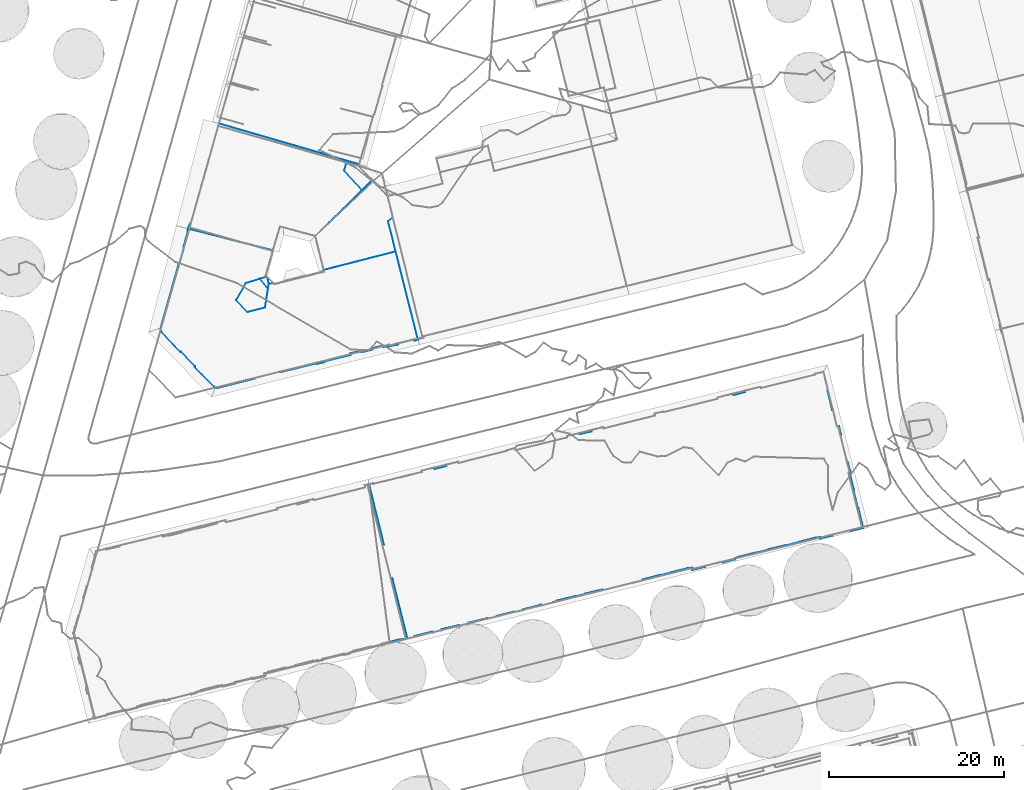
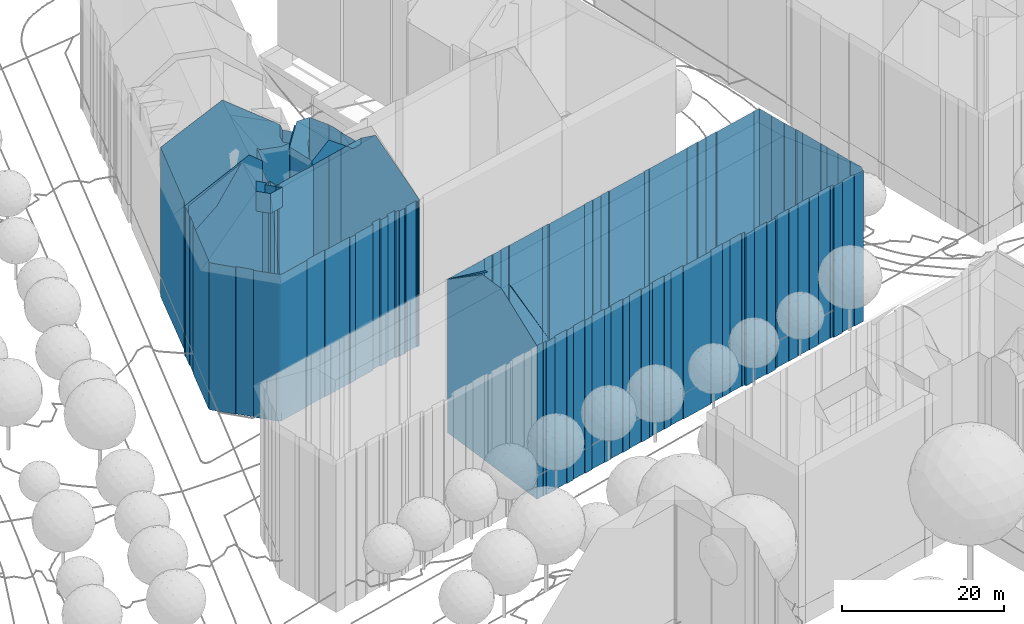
# Not in any storey, part 28 of 494: 3 walls.
"""IFC2X3 model written with IfcOpenShell, lengths in metres."""

from ifc_helpers import new_model, si_unit, frame, origin_with_axes, place, context, subcontext, project, faceted_brep, element, save


model = new_model("IFC2X3")

# Units and contexts
model_context = context("Model", 3, precision=1e-05, world=origin_with_axes())
body_context = subcontext(model_context, "Body", "Model", "MODEL_VIEW")
ifc_project = project(units=[si_unit("AREAUNIT", "SQUARE_METRE"), si_unit("LENGTHUNIT", "METRE")], contexts=[model_context])

# Walls
wall_1_placement = place(None, frame((81.7547320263, 354.0350160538, 535.8227), z_axis=(0.0, 0.0, 1.0), x_axis=(1.0, 0.0, 0.0)))
element("IfcWall", 1, at=wall_1_placement, Name="Wall 0", context=body_context, shape_type="Brep", body=[
    faceted_brep([(2.7639999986, -10.9317000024, 27.7403), (2.6779999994, -10.5811000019, 27.7703), (2.7639999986, -10.9317000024, 27.5734), (1.6660000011, -6.5508000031, 27.4574), (1.6660000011, -6.5508000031, 27.7914), (0.063000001, 0.0155999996, 23.0608), (0.063000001, 0.0155999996, 23.0878), (1.7730000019, -6.9131000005, 27.7424), (4.4270000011, -17.6055000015, 23.0608), (4.4270000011, -17.6055000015, 23.0748), (1.4459999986, -10.8868000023, 27.7703), (0.9459999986, -7.1202000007, 27.7704), (1.4459999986, -10.8868000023, 0.0), (1.4919999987, -11.2305000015, 27.5814), (1.4919999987, -11.2305000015, 0.0), (3.4310000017, -17.7675999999, 0.0), (3.4310000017, -17.7675999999, 23.1128), (3.4160000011, -17.7237000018, 0.0), (3.8969999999, -17.6446000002, 0.0), (3.8969999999, -17.6443000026, 23.1188), (3.9178999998, -17.7312000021, 0.0), (3.9178999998, -17.7312000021, 23.0598), (4.2390000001, -17.6513999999, 23.0608), (4.2390000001, -17.6513999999, 0.0), (4.4299999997, -17.6045000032, 0.0), (2.3880000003, -17.9776000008, 0.0), (2.3880000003, -17.9776000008, 23.1418), (5.2769999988, -17.3946000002, 0.0), (4.7899999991, -17.5157000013, 23.0758), (5.2769999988, -17.3946000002, 23.0778), (5.2609999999, -17.3057000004, 23.1388), (5.2609999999, -17.3057000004, 0.0), (7.2520000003, -16.8125, 0.0), (7.2520000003, -16.8125, 23.1438), (7.2829999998, -16.8965000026, 0.0), (7.2829999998, -16.8965000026, 23.0838), (7.7230000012, -16.7871000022, 23.0848), (8.2120000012, -16.6661000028, 0.0), (8.2300000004, -16.6621000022, 23.0868), (8.3420000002, -16.5411000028, 23.1478), (8.3630000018, -16.6289000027, 0.0), (8.3420000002, -16.5411000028, 0.0), (8.7390000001, -16.443400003, 23.1488), (8.7919999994, -16.4307000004, 0.0), (8.3630000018, -16.6289000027, 23.0858), (24.6559999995, -12.4786000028, 23.1148), (24.6559999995, -12.4786000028, 0.0), (26.6669999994, -11.9932000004, 23.0998), (26.6669999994, -11.9932000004, 0.0), (26.694000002, -12.0840000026, 23.0318), (31.2730000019, -10.9502000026, 23.0178), (31.2730000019, -10.9502000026, 0.0), (31.2470000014, -10.8467000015, 23.0938), (31.2470000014, -10.8467000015, 0.0), (33.2459999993, -10.3409000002, 0.0), (33.2459999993, -10.3409000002, 23.0948), (33.2580000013, -10.3731000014, 0.0), (34.4510000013, -10.0811000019, 0.0), (34.4510000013, -10.0811000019, 23.0648), (34.4450000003, -10.0459000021, 0.0), (34.4450000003, -10.0459000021, 23.0898), (36.3969999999, -9.567400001, 23.0808), (36.4070000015, -9.6084000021, 0.0), (36.4070000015, -9.6084000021, 23.0498), (36.3969999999, -9.567400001, 0.0), (36.8330000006, -9.5020000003, 0.0), (36.9052000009, -9.7803000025, 0.0), (36.9050000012, -9.7803000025, 22.8438), (36.8330000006, -9.5020000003, 23.0488), (38.3379999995, -9.327200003, 0.0), (40.3770000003, -8.8203000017, 0.0), (40.3770000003, -8.8203000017, 22.9028), (38.3379999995, -9.327200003, 22.9078), (40.4010000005, -8.9151000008, 22.8328), (40.4010000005, -8.9151000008, 0.0), (41.8090000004, -8.563500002, 0.0), (41.7730000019, -8.4131000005, 22.9408), (41.8090000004, -8.563500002, 22.8298), (42.1550000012, -8.3194000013, 22.9388), (41.7730000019, -8.4131000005, 0.0), (42.1550000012, -8.3194000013, 0.0), (42.1449999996, -8.2803000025, 22.9678), (42.1449999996, -8.2803000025, 0.0), (44.1460000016, -7.7832000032, 0.0), (44.1460000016, -7.7832000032, 22.9628), (44.1610000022, -7.8145000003, 22.9388), (45.6469999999, -7.4502000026, 22.9308), (44.1610000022, -7.8145000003, 0.0), (47.5320000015, -6.942400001, 22.9538), (45.6330000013, -7.4034000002, 0.0), (47.5320000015, -6.942400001, 0.0), (45.6330000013, -7.4034000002, 22.9658), (47.5450000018, -6.9803000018, 22.9248), (47.5450000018, -6.9805000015, 0.0), (49.0370000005, -6.6152999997, 22.9168), (49.0370000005, -6.6152999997, 0.0), (49.0250000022, -6.5703000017, 0.0), (49.0250000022, -6.5703000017, 22.9508), (51.0549999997, -6.0576000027, 0.0), (51.0549999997, -6.0577000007, 22.9508), (51.0709999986, -6.1055000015, 0.0), (51.0709999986, -6.1055000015, 22.9148), (51.4629999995, -6.004900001, 0.0), (51.4629999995, -6.004900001, 22.9158), (51.5159999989, -6.1748000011, 22.7888), (51.5159999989, -6.1748000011, 0.0), (52.9180000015, -5.8379000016, 0.0), (52.9180000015, -5.8379000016, 22.7768), (52.8949999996, -5.7276000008, 22.8578), (54.9420000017, -5.2276000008, 0.0), (54.9420000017, -5.2276000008, 22.8468), (52.8949999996, -5.7276000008, 0.0), (54.9670000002, -5.3269999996, 0.0), (54.9670000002, -5.3269999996, 22.7728), (56.4129999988, -4.9825000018, 22.7598), (10.3099999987, -16.0567000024, 0.0), (10.3099999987, -16.0567000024, 23.1428), (10.3361000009, -16.1405999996, 0.0), (10.3359999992, -16.1407000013, 23.0798), (11.4270000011, -15.8692000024, 0.0), (11.4270000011, -15.8692000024, 23.0768), (11.4090000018, -15.7901000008, 0.0), (13.561999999, -15.2696000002, 0.0), (11.4090000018, -15.7901000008, 23.1348), (13.5621000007, -15.2699000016, 23.1198), (13.5789999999, -15.3360000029, 23.0698), (13.5789999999, -15.3360000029, 0.0), (14.5879999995, -15.0860000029, 0.0), (14.5879999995, -15.0860000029, 23.0668), (14.5729999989, -15.0157000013, 23.1188), (14.5729999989, -15.0157000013, 0.0), (16.5639999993, -14.5245000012, 23.1118), (16.5639999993, -14.5244000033, 0.0), (16.5800000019, -14.5918000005, 0.0), (16.5800000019, -14.5918000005, 23.0618), (17.6959999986, -14.3155000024, 23.0578), (17.6810000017, -14.2383000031, 0.0), (17.6959999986, -14.3154000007, 0.0), (17.6810000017, -14.2383000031, 23.1148), (19.6710000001, -13.7471000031, 0.0), (19.6710000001, -13.7471000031, 23.1068), (19.6909999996, -13.8213, 0.0), (21.0590000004, -13.4825000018, 0.0), (21.0590000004, -13.4825000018, 23.0478), (19.6909999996, -13.8213, 23.0518), (21.0470000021, -13.4239000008, 23.0898), (21.5269999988, -13.3057000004, 23.0888), (21.5269999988, -13.3057000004, 0.0), (21.0470000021, -13.4239000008, 0.0), (21.5130000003, -13.2530000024, 0.0), (23.5159999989, -12.7637000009, 23.1168), (23.5159999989, -12.7637000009, 0.0), (21.5130000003, -13.2530000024, 23.1268), (23.5280000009, -12.8055000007, 0.0), (23.5280000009, -12.8055000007, 23.0858), (24.6680000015, -12.5263999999, 23.0798), (24.6680000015, -12.5263999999, 0.0), (56.2769999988, -4.4229000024, 7.2093), (56.2320000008, -4.2422000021, 23.0718), (56.2630000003, -4.3692000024, 23.0758), (56.307, -4.5470000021, 23.0798), (56.307, -4.5470000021, 0.0), (56.2300000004, -4.2334000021, 0.0), (53.4220000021, 6.5898000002, 22.9728), (53.4220000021, 6.5898000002, 0.0), (52.9479999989, 8.5067999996, 22.9398), (52.9479999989, 8.5067999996, 0.0), (52.8770000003, 8.4842999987, 22.9908), (52.8770000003, 8.4842999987, 0.0), (52.3440000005, 10.6747999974, 0.0), (52.3440000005, 10.6747999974, 22.9478), (52.4050000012, 10.6991999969, 0.0), (52.4050000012, 10.6991999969, 22.9028), (51.8770000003, 12.8299999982, 0.0), (51.8770000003, 12.8299999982, 22.8678), (50.9210000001, 12.5975999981, 22.9138), (51.8110000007, 12.8134000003, 22.9138), (55.9979999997, -3.2842000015, 5.7504), (55.9880000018, -3.2442000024, 23.0528), (55.8570000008, -2.7090000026, 23.0428), (55.8570000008, -2.7090000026, 0.0), (56.1380000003, -3.8594000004, 11.5289), (55.8110000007, -2.7168000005, 0.0), (55.8110000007, -2.7168000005, 23.0748), (55.3489999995, -0.6338, 23.0038), (55.3029999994, -0.6494000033, 0.0), (55.3489999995, -0.6338, 0.0), (54.8599999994, 1.369099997, 22.9658), (54.8599999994, 1.369099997, 0.0), (54.949000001, 1.3905999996, 0.0), (54.949000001, 1.3905999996, 22.9028), (54.5969999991, 2.4491999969, 22.9448), (53.8220000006, 5.5625, 0.0), (53.8220000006, 5.5625, 22.8948), (53.9100000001, 5.5887999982, 0.0), (53.9100000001, 5.5887999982, 22.8318), (53.6570000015, 6.6454999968, 0.0), (53.6570000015, 6.6454999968, 22.8088), (0.0, 0.0, 23.0658), (0.0329999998, 0.0088, 0.0), (0.0, 0.0, 0.0), (0.1150000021, 0.0282999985, 23.0868), (0.9459999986, -7.1202000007, 0.0), (0.5269999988, 0.047799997, 23.1408), (2.4389999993, 0.5145999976, 10.481), (0.5269999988, 0.047799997, 0.0), (4.1270000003, 0.9266999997, 0.0), (0.5080000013, 0.1268999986, 0.0), (0.5080000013, 0.1268999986, 23.0848), (22.6209999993, 5.4979999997, 23.0728), (24.0399999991, 5.8486000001, 23.0688), (22.6209999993, 5.4979999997, 0.0), (24.0399999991, 5.8486000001, 0.0), (22.6570000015, 5.3514999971, 23.1768), (22.6570000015, 5.3514999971, 0.0), (16.7820000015, 3.8944999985, 23.1988), (16.7820000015, 3.8944999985, 0.0), (16.7259999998, 4.1278999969, 0.0), (16.7259999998, 4.1278999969, 23.0338), (15.7639999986, 3.8954999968, 23.0328), (15.7639999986, 3.8954999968, 0.0), (15.7829999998, 3.8172999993, 23.0878), (15.7829999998, 3.8172999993, 0.0), (10.2300000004, 2.422799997, 23.1208), (10.2300000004, 2.422799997, 0.0), (10.194000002, 2.5682999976, 0.0), (10.194000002, 2.5682999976, 23.0178), (8.8249999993, 2.2313999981, 0.0), (8.8249999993, 2.2313999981, 23.0208), (8.8509999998, 2.0829999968, 0.0), (7.4790000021, 1.9012999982, 0.0), (7.4790000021, 1.9012999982, 23.0228), (7.512000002, 1.7470999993, 0.0), (7.512000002, 1.7469999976, 23.1318), (6.0549999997, 1.5516999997, 0.0), (6.0549999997, 1.5516999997, 23.0268), (6.0910000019, 1.4051999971, 0.0), (6.0910000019, 1.4051999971, 23.1298), (4.1500000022, 0.932599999, 23.1318), (50.9210000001, 12.5975999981, 0.0), (44.7300000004, 10.9667999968, 0.0), (50.9420000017, 12.5097000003, 22.9758), (50.9420000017, 12.5097000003, 0.0), (44.694000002, 11.1122999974, 22.8968), (44.694000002, 11.1122999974, 0.0), (42.9160000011, 10.672799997, 22.9028), (42.9160000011, 10.672799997, 0.0), (42.9459999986, 10.5292999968, 0.0), (42.9459999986, 10.5292999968, 23.0038), (41.6110000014, 10.177699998, 0.0), (41.5729999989, 10.3396999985, 0.0), (41.5729999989, 10.3396999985, 22.9078), (41.6110000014, 10.177699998, 23.0228), (39.7730000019, 9.8944999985, 0.0), (39.7730000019, 9.8944999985, 22.9138), (39.8090000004, 9.748999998, 23.0168), (39.8090000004, 9.748999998, 0.0), (33.5780000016, 8.2137999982, 23.0338), (33.5780000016, 8.2137999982, 0.0), (33.557, 8.3006999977, 22.9718), (33.557, 8.3006999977, 0.0), (32.5980000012, 8.066399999, 0.0), (32.5980000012, 8.066399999, 22.9728), (32.6550000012, 7.8339999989, 0.0), (32.6550000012, 7.8338999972, 23.1378), (26.7860000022, 6.3729999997, 0.0), (26.7860000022, 6.3729999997, 23.1628), (26.75, 6.5185000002, 23.0598), (26.75, 6.5185000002, 0.0), (25.379999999, 6.1805999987, 0.0), (25.379999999, 6.1805999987, 23.0638), (25.4079999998, 6.0340999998, 23.1668), (25.4079999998, 6.0340999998, 0.0), (24.0720000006, 5.7088999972, 0.0), (24.0720000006, 5.7088999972, 23.1668), (3.4160000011, -17.7237000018, 23.1438), (26.694000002, -12.0840000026, 0.0), (33.2580000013, -10.3731000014, 23.0708), (38.3610000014, -9.4200000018, 0.0), (38.3610000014, -9.4200000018, 22.8388), (45.6469999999, -7.4502000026, 0.0), (56.4129999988, -4.9825000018, 0.0), (55.3029999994, -0.6494000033, 23.0368), (54.6849999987, 2.4755999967, 0.0), (54.6849999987, 2.4754999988, 22.8818), (54.5969999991, 2.4491999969, 0.0), (8.8509999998, 2.0829999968, 23.1248), (44.7300000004, 10.9667999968, 23.0008)], [[[0, 1, 2]], [[3, 4, 5]], [[6, 5, 4]], [[7, 4, 3]], [[8, 9, 0]], [[0, 2, 8]], [[10, 11, 12]], [[13, 12, 14]], [[15, 16, 17]], [[18, 16, 15]], [[19, 20, 21]], [[19, 18, 20]], [[21, 20, 22]], [[22, 20, 23]], [[24, 8, 22]], [[22, 23, 24]], [[25, 26, 13]], [[14, 25, 13]], [[27, 28, 24]], [[29, 28, 27]], [[8, 28, 9]], [[28, 8, 24]], [[30, 29, 31]], [[32, 33, 31]], [[34, 35, 33]], [[33, 32, 34]], [[36, 37, 38]], [[36, 35, 34]], [[39, 40, 41]], [[42, 41, 43]], [[42, 39, 41]], [[40, 44, 38]], [[37, 40, 38]], [[44, 40, 39]], [[45, 46, 47]], [[48, 47, 46]], [[49, 47, 48]], [[50, 49, 51]], [[52, 50, 53]], [[53, 50, 51]], [[52, 54, 55]], [[55, 54, 56]], [[57, 58, 56]], [[58, 57, 59]], [[60, 59, 61]], [[62, 63, 61]], [[61, 64, 62]], [[63, 62, 65]], [[66, 67, 68]], [[69, 70, 71]], [[71, 72, 69]], [[73, 70, 74]], [[73, 74, 75]], [[76, 77, 75]], [[78, 79, 80]], [[80, 81, 78]], [[82, 81, 80]], [[83, 84, 82]], [[81, 82, 84]], [[84, 83, 85]], [[86, 85, 87]], [[88, 89, 90]], [[91, 89, 88]], [[88, 90, 92]], [[93, 92, 90]], [[94, 92, 95]], [[92, 93, 95]], [[96, 97, 94]], [[94, 95, 96]], [[98, 99, 97]], [[97, 96, 98]], [[99, 98, 100]], [[101, 102, 103]], [[101, 100, 102]], [[103, 102, 104]], [[104, 102, 105]], [[106, 107, 105]], [[108, 107, 106]], [[109, 110, 111]], [[111, 110, 108]], [[109, 112, 113]], [[110, 109, 113]], [[112, 114, 113]], [[43, 115, 116]], [[116, 42, 43]], [[117, 118, 116]], [[116, 115, 117]], [[119, 120, 118]], [[118, 117, 119]], [[120, 119, 121]], [[122, 123, 121]], [[124, 122, 125]], [[126, 125, 122]], [[126, 127, 128]], [[129, 127, 130]], [[131, 130, 132]], [[130, 131, 129]], [[132, 133, 134]], [[132, 134, 131]], [[134, 133, 135]], [[136, 135, 137]], [[136, 138, 135]], [[138, 139, 140]], [[138, 136, 139]], [[140, 139, 141]], [[142, 143, 144]], [[144, 141, 142]], [[145, 143, 142]], [[146, 145, 147]], [[147, 145, 148]], [[146, 147, 149]], [[150, 149, 151]], [[149, 150, 152]], [[150, 153, 154]], [[150, 151, 153]], [[155, 153, 156]], [[155, 156, 46]], [[157, 158, 159]], [[160, 161, 159]], [[159, 161, 157]], [[157, 161, 162]], [[163, 164, 165]], [[165, 164, 166]], [[167, 165, 168]], [[165, 166, 168]], [[169, 170, 168]], [[167, 168, 170]], [[170, 169, 171]], [[172, 173, 174]], [[174, 175, 176]], [[177, 178, 162]], [[179, 177, 180]], [[177, 179, 178]], [[178, 158, 181]], [[177, 162, 180]], [[180, 182, 179]], [[183, 179, 182]], [[184, 185, 186]], [[186, 187, 184]], [[188, 187, 186]], [[187, 189, 190]], [[187, 188, 189]], [[191, 192, 193]], [[194, 195, 192]], [[196, 197, 195]], [[194, 196, 195]], [[164, 163, 197]], [[197, 196, 164]], [[198, 199, 200]], [[5, 201, 199]], [[11, 198, 202]], [[203, 204, 205]], [[204, 206, 205]], [[203, 207, 208]], [[203, 205, 207]], [[5, 6, 201]], [[208, 207, 201]], [[201, 207, 199]], [[209, 210, 211]], [[210, 212, 211]], [[213, 211, 214]], [[211, 213, 209]], [[215, 213, 216]], [[213, 214, 216]], [[217, 218, 216]], [[215, 216, 218]], [[219, 218, 217]], [[219, 217, 220]], [[221, 219, 222]], [[219, 220, 222]], [[223, 221, 222]], [[224, 225, 226]], [[226, 227, 228]], [[228, 227, 229]], [[230, 231, 232]], [[232, 231, 233]], [[231, 230, 234]], [[235, 236, 237]], [[235, 234, 236]], [[236, 238, 237]], [[175, 173, 239]], [[240, 241, 242]], [[243, 240, 244]], [[245, 243, 246]], [[247, 248, 246]], [[249, 250, 251]], [[252, 249, 251]], [[251, 253, 254]], [[251, 250, 253]], [[255, 254, 256]], [[254, 253, 256]], [[257, 255, 256]], [[257, 256, 258]], [[259, 257, 260]], [[260, 257, 258]], [[261, 262, 260]], [[262, 263, 264]], [[262, 261, 263]], [[265, 266, 263]], [[266, 264, 263]], [[267, 266, 268]], [[268, 269, 270]], [[270, 267, 268]], [[271, 270, 272]], [[270, 269, 272]], [[271, 272, 273]], [[210, 274, 212]], [[274, 273, 212]], [[11, 202, 12]], [[10, 12, 13]], [[26, 25, 275]], [[17, 275, 25]], [[275, 17, 16]], [[18, 19, 16]], [[29, 27, 31]], [[30, 31, 33]], [[37, 36, 34]], [[276, 49, 48]], [[49, 276, 51]], [[52, 53, 54]], [[277, 55, 56]], [[56, 58, 277]], [[59, 60, 58]], [[64, 61, 59]], [[65, 68, 63]], [[68, 65, 66]], [[67, 278, 279]], [[278, 67, 66]], [[72, 279, 69]], [[279, 278, 69]], [[71, 70, 73]], [[75, 77, 73]], [[79, 76, 75]], [[76, 79, 78]], [[87, 85, 83]], [[280, 86, 87]], [[86, 89, 91]], [[86, 280, 89]], [[99, 100, 101]], [[104, 105, 107]], [[111, 108, 106]], [[281, 114, 112]], [[160, 281, 161]], [[160, 114, 281]], [[121, 123, 120]], [[124, 123, 122]], [[128, 125, 126]], [[128, 127, 129]], [[137, 135, 133]], [[141, 144, 140]], [[148, 145, 142]], [[152, 146, 149]], [[154, 153, 155]], [[45, 155, 46]], [[162, 158, 157]], [[170, 171, 172]], [[173, 172, 171]], [[174, 173, 175]], [[178, 181, 162]], [[158, 162, 181]], [[185, 282, 182]], [[282, 183, 182]], [[282, 185, 184]], [[190, 283, 284]], [[190, 189, 283]], [[285, 191, 283]], [[283, 191, 284]], [[191, 285, 192]], [[193, 192, 195]], [[5, 199, 198]], [[198, 200, 202]], [[204, 203, 238]], [[238, 206, 204]], [[223, 222, 224]], [[223, 224, 226]], [[226, 225, 227]], [[286, 228, 229]], [[229, 232, 233]], [[286, 229, 233]], [[231, 234, 235]], [[206, 238, 236]], [[241, 239, 242]], [[175, 239, 241]], [[287, 241, 240]], [[287, 240, 243]], [[246, 243, 244]], [[245, 246, 248]], [[248, 247, 249]], [[252, 248, 249]], [[260, 262, 259]], [[266, 265, 268]], [[271, 273, 274]]]),
])
wall_2_placement = place(None, frame((57.9967320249, 371.6443160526, 536.9447), z_axis=(0.0, 0.0, 1.0), x_axis=(1.0, 0.0, 0.0)))
element("IfcWall", 2, at=wall_2_placement, Name="Wall 0", context=body_context, shape_type="Brep", body=[
    faceted_brep([(12.2110000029, 5.9814999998, 26.3844), (12.3510000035, 5.2305000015, 26.0615), (12.2110000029, 5.9814999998, -0.0001), (12.3510000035, 5.2305000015, 26.3844), (12.2690000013, 4.7159000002, 26.3864), (11.3289999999, 5.8291000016, 26.3844), (12.2690000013, 4.7159000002, 24.7896), (24.1640000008, 17.1083999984, 25.1665), (24.2860000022, 16.9844000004, 25.1216), (24.1640000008, 17.1083999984, 18.8751), (24.2860000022, 16.9844000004, 6.2474), (24.1640000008, 17.1083999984, 0.0), (24.2860000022, 16.9844000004, 18.8302), (24.2860000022, 16.9844000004, 0.0), (26.5090000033, 12.8779999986, 24.4796), (25.9670000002, 12.4228999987, -0.0001), (26.5090000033, 12.8779999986, -0.0001), (17.6710000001, 10.6992999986, 13.4117), (17.6480000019, 10.7050999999, 26.8104), (17.6710000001, 10.6992999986, -0.0001), (17.6480000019, 10.7050999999, 6.6933), (17.6480000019, 10.7050999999, -0.0001), (28.8460000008, -1.1064000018, 10.9959), (28.9420000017, -1.2010999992, -0.0001), (28.8460000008, -1.1064000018, 21.9928), (29.0520000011, -1.2138000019, 21.8768), (29.0520000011, -1.2138000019, -0.0001), (28.9420000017, -1.2010999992, 21.9058), (29.2050000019, -1.1737999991, -0.0001), (29.193, -1.1240000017, -0.0001), (29.193, -1.1240000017, 21.9158), (29.2050000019, -1.1737999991, 21.8778), (29.3720000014, -1.0800000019, -0.0001), (29.3718000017, -1.0800999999, 10.9579), (29.2978000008, -1.0976999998, 21.9158), (6.4150000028, -6.6141999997, 22.1078), (6.2920000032, -6.5879000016, -0.0001), (6.4150000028, -6.6141999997, -0.0001), (17.7860000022, -3.9061999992, 21.9878), (17.7860000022, -3.9061999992, -0.0001), (18.7190000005, -3.6787, 21.9818), (18.700000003, -3.6004999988, 22.0428), (18.700000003, -3.6004999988, -0.0001), (18.7190000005, -3.6787, -0.0001), (21.6910000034, -2.8680999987, -0.0001), (21.6910000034, -2.8680999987, 22.0248), (21.6490000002, -2.6766999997, -0.0001), (22.9230000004, -2.371100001, 22.1608), (21.6490000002, -2.6766999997, 22.1728), (22.9230000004, -2.371100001, -0.0001), (22.9730000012, -2.5555999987, -0.0001), (22.9730000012, -2.5555999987, 22.0168), (24.1920000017, -2.2578000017, -0.0001), (24.1920000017, -2.2578000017, 22.0098), (24.1520000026, -2.0791000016, 22.1478), (24.1520000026, -2.0791000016, -0.0001), (25.4200000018, -1.7694999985, 22.1398), (25.4200000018, -1.7694999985, -0.0001), (25.4640000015, -1.9453000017, -0.0001), (25.4640000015, -1.9453000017, 22.0028), (26.0200000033, -1.8095000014, -0.0001), (26.0430000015, -1.9013000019, 21.9288), (26.0200000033, -1.8095000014, 21.9998), (26.876000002, -1.6953000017, -0.0001), (26.876000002, -1.6953000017, 21.9258), (26.0430000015, -1.9013000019, -0.0001), (26.8880000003, -1.7430999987, -0.0001), (27.068, -1.6904000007, -0.0001), (27.068, -1.6904000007, 21.8938), (26.8880000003, -1.7430999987, 21.8888), (27.1150000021, -1.6435000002, 21.9198), (27.1510000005, -1.5243999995, 9.625), (27.1510000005, -1.5243999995, 21.9998), (27.1150000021, -1.6435000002, -0.0001), (27.1510000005, -1.5243999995, -0.0001), (6.4491000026, -6.6229999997, -0.0001), (6.5460000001, -6.6103000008, 22.0868), (6.449000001, -6.6229999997, 22.0958), (6.5460000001, -6.6103000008, -0.0001), (10.6600000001, -5.5742000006, -0.0001), (7.6240000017, -6.3398000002, 22.0858), (10.6600000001, -5.5742000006, 22.0838), (10.7359000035, -5.5419999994, 22.0938), (10.7360000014, -5.5419000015, -0.0001), (10.8060000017, -5.4765000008, 22.1288), (10.8060000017, -5.4765000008, -0.0001), (13.6530000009, -4.7685000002, -0.0001), (13.6530000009, -4.7685000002, 22.1208), (13.7200000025, -4.7928999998, 22.0908), (13.7200000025, -4.7928999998, -0.0001), (13.8270000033, -4.7928999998, -0.0001), (13.8270000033, -4.7928999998, 22.0708), (17.7670000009, -3.8291000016, -0.0001), (17.7670000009, -3.8291000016, 22.0478), (12.9810000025, 5.2120000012, -0.0001), (12.8380000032, 5.3555000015, 26.0855), (12.9810000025, 5.2120000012, 26.2124), (12.8380000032, 5.3555000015, -0.0001), (12.3510000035, 5.2305000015, -0.0001), (12.819000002, 9.0615999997, 13.0677), (12.7980000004, 8.9912, 0.0), (12.819000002, 9.0615999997, 0.0), (12.7971000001, 8.9882999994, 26.1455), (12.8191, 9.0615000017, 26.1405), (6.188000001, -6.5293000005, -0.0001), (6.1330000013, -6.4833999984, 22.1528), (6.131000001, -6.4824000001, 5.5344), (6.0970000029, -6.4541000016, 22.1508), (6.0970000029, -6.4541000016, -0.0001), (2.3590000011, -2.4803999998, -0.0001), (2.2930000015, -2.5439000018, 22.1358), (2.2930000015, -2.5439000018, -0.0001), (3.9330000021, -4.1240000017, -0.0001), (3.9330000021, -4.1240000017, 22.1898), (3.8720000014, -4.191399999, 22.1308), (3.8720000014, -4.191399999, -0.0001), (5.5410000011, -5.8885999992, 8.3011), (5.3060000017, -5.6484000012, 22.1428), (4.5670000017, -4.8984000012, 8.2921), (4.9850000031, -5.3222000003, 5.5274), (4.4280000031, -4.7578000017, 22.1358), (0.0, 0.0, 0.0), (0.0, 0.0, 22.2128), (0.0100000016, 0.1699999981, 22.2938), (0.0101000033, 0.1699999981, 11.1469), (0.0101000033, 0.1699999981, 16.7204), (0.0100000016, 0.1699999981, 5.5734), (0.0100000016, 0.1689999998, 0.0), (0.0540000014, -0.1523000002, 0.0), (0.0540000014, -0.1523000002, 22.1688), (0.1380000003, -0.2675000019, 0.0), (0.1380000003, -0.2675000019, 22.1558), (1.2150000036, -1.4043000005, 22.1458), (3.1611000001, 11.5390999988, 16.8784), (3.1020000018, 11.309700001, 0.0), (3.1611000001, 11.5390999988, 22.5048), (3.1610000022, 11.5390999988, 0.0), (3.1020000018, 11.3095999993, 22.5058), (3.1570000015, 11.2930000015, 11.2729), (3.1570000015, 11.2930000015, 22.5468), (3.1570000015, 11.2930000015, 5.6364), (3.1570000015, 11.2930999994, 0.0), (2.1290000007, 7.6152999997, 0.0), (2.1290000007, 7.6152999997, 22.4898), (2.2030000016, 7.6963, 22.5268), (2.2030000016, 7.6963, 0.0), (2.0930000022, 7.5390999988, 22.4778), (2.0930000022, 7.5392000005, 16.8553), (2.6431000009, 9.4814999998, 16.8833), (2.637000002, 9.3847999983, 0.0), (2.6432000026, 9.4814999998, 22.5148), (2.6431000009, 9.4814999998, 11.2509), (2.637000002, 9.3847999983, 22.5278), (2.6590000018, 9.3027999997, 0.0), (11.7240000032, 5.9521999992, 26.3844), (12.1180000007, 6.0742999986, 26.3844), (12.1180000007, 6.0742999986, 26.1115), (9.9340000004, 2.0507999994, 27.7683), (11.9160000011, 2.5518000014, 27.7683), (9.9340000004, 2.0507999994, 24.7896), (11.9160000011, 2.5518000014, 24.7896), (9.7270000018, 5.3339999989, 27.7683), (8.6410000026, 3.3907000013, 27.7683), (9.7270000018, 5.3339999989, 24.7896), (8.6410000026, 3.3907000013, 24.7896), (12.007000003, 6.1856000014, -0.0001), (12.007000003, 6.1856000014, 26.2164), (24.9530000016, 16.2842000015, 24.8816), (25.6150000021, 15.5909000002, 24.6396), (25.9170000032, 15.2745000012, 24.5296), (25.9170000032, 15.2745000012, -0.0001), (25.6150000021, 15.5909000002, -0.0001), (24.9530000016, 16.2842000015, -0.0001), (26.1160000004, 14.4688000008, -0.0001), (26.1160000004, 14.4688000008, 24.5856), (17.6480000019, 10.7050999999, 13.3987), (23.007000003, 15.9726999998, 0.0), (19.9760000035, 12.9941999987, -0.0001), (19.9760000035, 12.9941999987, 28.5112), (23.007000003, 15.9726999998, 26.0905), (25.9670000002, 12.4228999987, 25.1105), (26.8340000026, 8.9472999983, -0.0001), (26.8340000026, 8.9472999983, 26.0614), (27.2670000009, 7.2217000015, 27.2483), (26.8340000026, 8.9472999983, 25.1105), (27.2670000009, 7.2217000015, -0.0001), (28.006000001, -1.3134000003, 21.9958), (28.006000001, -1.3134000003, -0.0001), (28.8460000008, -1.1064000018, -0.0001), (27.4590000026, 6.4677999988, 27.7683), (29.3720000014, -1.0800000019, 21.9158), (27.4590000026, 6.4677999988, -0.0001), (6.2920000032, -6.5879000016, 22.1498), (6.188000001, -6.5293000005, 22.1578), (6.2540000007, -6.566399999, 22.1728), (12.6400000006, 8.4307000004, 26.1735), (11.1620000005, 9.4853999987, 27.2084), (10.2950000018, 9.7071000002, 27.7683), (10.3950000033, 9.6816999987, 0.0), (2.0930000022, 7.5390999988, 0.0), (0.0340000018, 0.253899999, 22.3428), (2.9260000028, 10.4776000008, 0.0), (2.643000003, 9.4814999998, 0.0), (2.9260000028, 10.4776000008, 22.5348), (18.6359999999, 6.8447999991, 26.0615), (24.3900000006, 8.3213, 26.0615), (21.387000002, 7.5507999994, 28.5112), (18.6359999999, 6.8447999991, 26.7254), (24.7370000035, 8.4101999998, 25.7785), (25.444000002, 8.5918000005, 25.1105), (11.3289999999, 5.8291000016, 26.6584), (11.3289999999, 5.8291000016, 24.7896), (18.689000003, 6.6347999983, 26.2064), (18.6760000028, 6.6845999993, 26.1714), (18.689000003, 6.6347999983, -0.0001), (18.6770000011, 6.6827000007, -0.0001), (17.9580000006, 9.5546999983, -0.0001), (17.9580000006, 9.5546999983, 26.8174), (17.6710000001, 10.6992999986, 26.8234), (13.8440000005, 5.4277999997, -0.0001), (16.1700000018, 6.0069000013, -0.0001), (13.8440000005, 5.4277999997, 26.2604), (16.1700000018, 6.0069000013, 26.2724), (17.5560000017, 6.3526000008, 26.2044), (17.5560000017, 6.3526000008, -0.0001), (2.3590000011, -2.4803999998, 22.1958), (2.6590000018, 9.3027999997, 22.5578)], [[[0, 1, 2]], [[3, 1, 0]], [[4, 5, 6]], [[7, 8, 9]], [[10, 11, 12]], [[11, 10, 13]], [[14, 15, 16]], [[17, 18, 19]], [[20, 21, 19]], [[22, 23, 24]], [[25, 23, 26]], [[23, 25, 27]], [[28, 25, 26]], [[29, 30, 28]], [[30, 31, 28]], [[32, 33, 34]], [[30, 29, 34]], [[34, 29, 32]], [[35, 36, 37]], [[38, 39, 40]], [[41, 40, 42]], [[42, 40, 43]], [[42, 44, 45]], [[46, 45, 44]], [[47, 48, 49]], [[48, 46, 49]], [[49, 50, 51]], [[52, 53, 51]], [[51, 50, 52]], [[54, 52, 55]], [[56, 55, 57]], [[56, 54, 55]], [[58, 59, 56]], [[56, 57, 58]], [[60, 59, 58]], [[60, 61, 62]], [[63, 64, 65]], [[66, 64, 63]], [[67, 68, 69]], [[69, 66, 67]], [[70, 68, 67]], [[70, 71, 72]], [[70, 73, 74]], [[75, 35, 37]], [[76, 77, 78]], [[78, 77, 75]], [[79, 80, 78]], [[79, 81, 80]], [[80, 76, 78]], [[81, 79, 82]], [[83, 82, 79]], [[84, 82, 85]], [[82, 83, 85]], [[86, 87, 85]], [[87, 86, 88]], [[88, 86, 89]], [[90, 91, 89]], [[91, 88, 89]], [[92, 93, 90]], [[93, 92, 39]], [[94, 95, 96]], [[1, 97, 98]], [[97, 1, 95]], [[99, 100, 101]], [[102, 100, 103]], [[104, 105, 106]], [[105, 107, 106]], [[107, 108, 106]], [[106, 108, 104]], [[109, 110, 111]], [[112, 113, 109]], [[114, 112, 115]], [[114, 113, 112]], [[116, 117, 118]], [[116, 118, 119]], [[116, 107, 117]], [[107, 116, 108]], [[108, 116, 119]], [[120, 114, 118]], [[119, 118, 115]], [[114, 115, 118]], [[119, 115, 108]], [[121, 122, 123]], [[124, 121, 125]], [[126, 127, 121]], [[128, 129, 121]], [[122, 121, 129]], [[130, 131, 129]], [[129, 128, 130]], [[132, 130, 110]], [[111, 110, 130]], [[130, 132, 131]], [[133, 134, 135]], [[133, 136, 134]], [[137, 138, 139]], [[138, 137, 140]], [[141, 140, 137]], [[142, 143, 144]], [[144, 145, 142]], [[146, 143, 142]], [[142, 147, 146]], [[148, 149, 150]], [[151, 149, 148]], [[152, 149, 153]], [[145, 144, 153]], [[154, 155, 156]], [[3, 4, 1]], [[157, 158, 159]], [[158, 4, 160]], [[161, 162, 163]], [[162, 157, 164]], [[165, 156, 2]], [[156, 165, 166]], [[155, 0, 156]], [[2, 156, 0]], [[167, 12, 8]], [[12, 167, 168]], [[12, 168, 169]], [[169, 10, 12]], [[170, 10, 169]], [[10, 170, 171]], [[10, 172, 13]], [[172, 10, 171]], [[170, 169, 173]], [[173, 169, 16]], [[16, 174, 14]], [[174, 16, 169]], [[20, 175, 176]], [[177, 21, 20]], [[11, 176, 175]], [[177, 20, 176]], [[9, 18, 178]], [[9, 178, 179]], [[7, 9, 179]], [[11, 18, 9]], [[11, 175, 18]], [[15, 180, 181]], [[182, 183, 184]], [[184, 185, 181]], [[185, 184, 183]], [[186, 22, 24]], [[187, 22, 71]], [[187, 188, 22]], [[186, 72, 71]], [[74, 187, 71]], [[22, 186, 71]], [[189, 190, 183]], [[183, 190, 33]], [[33, 32, 191]], [[191, 185, 33]], [[33, 185, 183]], [[36, 192, 193]], [[36, 193, 104]], [[192, 194, 193]], [[100, 102, 165]], [[102, 166, 165]], [[166, 102, 195]], [[196, 103, 133]], [[197, 196, 133]], [[197, 133, 135]], [[133, 103, 136]], [[103, 99, 136]], [[99, 101, 198]], [[136, 99, 198]], [[127, 126, 199]], [[126, 124, 199]], [[125, 123, 200]], [[147, 200, 146]], [[125, 147, 199]], [[147, 125, 200]], [[125, 199, 124]], [[140, 201, 151]], [[148, 138, 151]], [[201, 202, 151]], [[148, 150, 203]], [[203, 139, 138]], [[140, 141, 201]], [[151, 138, 140]], [[148, 203, 138]], [[204, 205, 206]], [[207, 204, 206]], [[208, 205, 182]], [[209, 182, 184]], [[182, 209, 208]], [[5, 154, 210]], [[211, 5, 163]], [[161, 163, 5]], [[161, 5, 210]], [[212, 213, 214]], [[214, 213, 215]], [[216, 215, 204]], [[213, 204, 215]], [[204, 207, 217]], [[217, 218, 17]], [[17, 19, 216]], [[204, 17, 216]], [[17, 204, 217]], [[96, 219, 94]], [[220, 221, 222]], [[223, 212, 214]], [[224, 222, 223]], [[220, 219, 221]], [[224, 220, 222]], [[223, 214, 224]], [[221, 219, 96]], [[1, 98, 2]], [[5, 211, 6]], [[11, 9, 8]], [[11, 8, 12]], [[180, 15, 14]], [[18, 175, 19]], [[17, 218, 18]], [[175, 20, 19]], [[23, 27, 24]], [[22, 188, 23]], [[28, 31, 25]], [[33, 190, 34]], [[192, 36, 35]], [[43, 40, 39]], [[41, 42, 45]], [[46, 48, 45]], [[47, 49, 51]], [[53, 52, 54]], [[59, 60, 62]], [[65, 61, 60]], [[61, 65, 64]], [[69, 64, 66]], [[73, 70, 67]], [[70, 74, 71]], [[75, 77, 35]], [[84, 85, 87]], [[91, 90, 93]], [[93, 39, 38]], [[97, 95, 94]], [[103, 100, 99]], [[105, 104, 193]], [[225, 110, 109]], [[225, 109, 113]], [[117, 120, 118]], [[121, 123, 125]], [[124, 126, 121]], [[135, 134, 137]], [[137, 134, 141]], [[199, 147, 142]], [[149, 152, 150]], [[151, 202, 149]], [[226, 152, 153]], [[226, 153, 144]], [[158, 160, 159]], [[4, 6, 160]], [[162, 164, 163]], [[157, 159, 164]], [[180, 184, 181]]]),
])
wall_3_placement = place(None, frame((61.1577320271, 383.1834160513, 537.3186), z_axis=(0.0, 0.0, 1.0), x_axis=(1.0, 0.0, 0.0)))
element("IfcWall", 3, at=wall_3_placement, Name="Wall 0", context=body_context, shape_type="Brep", body=[
    faceted_brep([(0.2359999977, 0.5898000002, 22.2339), (0.3020000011, 0.5713, 0.0), (0.2359999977, 0.5898000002, 0.0), (0.1710000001, 0.3594000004, 22.2299), (0.1050999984, 0.374900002, 0.0), (0.1050000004, 0.375, 22.1789), (0.1710000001, 0.3593000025, 0.0), (0.0439999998, 0.1738000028, 22.1719), (0.0439999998, 0.1738000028, 0.0), (0.0, 0.0, 5.5435), (0.0, 0.0, 0.0), (10.4719999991, 0.2432000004, 27.0054), (10.0940000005, -1.0194999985, 27.0424), (10.4719999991, 0.2432000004, 20.2341), (10.4719999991, 0.2432000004, 13.4627), (10.4719999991, 0.2432000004, 0.0), (9.6579999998, -2.4784999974, 6.7704), (9.6579999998, -2.4784999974, 20.3141), (9.6579999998, -2.4784999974, 0.0), (19.4470000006, 7.1523000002, 21.536), (21.0029999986, 5.5692999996, 21.536), (19.4470000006, 7.1523000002, -0.3739), (19.504999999, 7.3525000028, 21.536), (19.504999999, 7.3525000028, -0.3739), (18.0940000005, 7.7627000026, 23.3749), (17.8000000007, 6.6201000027, 23.3748), (18.0940000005, 7.7627000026, 21.5361), (19.8460000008, 4.433600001, 23.3748), (17.8000000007, 6.6201000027, 21.536), (17.8000000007, 6.6201000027, 0.0), (18.0940000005, 7.7627000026, 0.0001), (17.8000000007, 6.6201000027, -0.3739), (19.8460000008, 4.433600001, 0.0), (19.8460000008, 4.433600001, -0.3739), (0.5269999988, 1.3729999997, 22.2979), (0.3020000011, 0.5713, 22.2849), (3.4290000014, 11.7188000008, 22.495), (3.5099999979, 12.001000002, 22.504), (3.5099999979, 12.001000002, 0.0002), (3.4290000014, 11.7188000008, 0.0002), (9.6579999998, -2.4784999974, 27.0854), (8.0009999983, -2.0537, 28.3173), (7.1339999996, -1.8319999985, 27.6524), (0.0, 0.0, 22.1729), (7.1339999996, -1.8319999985, 0.0), (8.0009999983, -2.0537, 0.0), (10.8110000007, 0.1523000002, 26.7535), (14.4859999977, -0.8339999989, 27.0464), (13.4659999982, -0.5595999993, 26.7445), (14.4859999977, -0.8339999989, 0.0), (13.4659999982, -0.5595999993, 0.0), (11.0500000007, 9.8115000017, 28.3194), (13.2190000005, 9.1807000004, 26.7956), (11.0500000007, 9.8115000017, 0.0001), (13.2190000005, 9.1807000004, 0.0001), (18.0940000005, 7.7627000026, -0.3738), (19.8460000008, 4.433600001, 21.536), (16.8150000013, 1.4550999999, 27.3394), (21.0029999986, 5.5692999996, -0.3739), (16.8150000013, 1.4550999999, 0.0), (16.0659999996, 0.7206999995, 0.0), (16.0659999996, 0.7206999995, 28.3173)], [[[0, 1, 2]], [[3, 0, 2]], [[4, 5, 6]], [[7, 4, 8]], [[7, 8, 9]], [[9, 8, 10]], [[11, 12, 13]], [[14, 12, 15]], [[15, 12, 16]], [[16, 12, 17]], [[16, 18, 15]], [[19, 20, 21]], [[22, 19, 23]], [[24, 25, 26]], [[25, 27, 28]], [[29, 30, 31]], [[32, 29, 33]], [[34, 1, 35]], [[36, 37, 38]], [[34, 36, 39]], [[39, 1, 34]], [[38, 39, 36]], [[40, 41, 42]], [[17, 42, 43]], [[17, 40, 42]], [[17, 9, 16]], [[44, 16, 9]], [[18, 16, 45]], [[45, 16, 44]], [[9, 10, 44]], [[9, 17, 43]], [[46, 11, 13]], [[47, 48, 13]], [[13, 48, 46]], [[47, 13, 49]], [[50, 49, 14]], [[15, 50, 14]], [[14, 49, 13]], [[37, 51, 52]], [[37, 52, 53]], [[53, 38, 37]], [[26, 54, 53]], [[53, 52, 26]], [[26, 22, 30]], [[24, 26, 52]], [[30, 23, 55]], [[26, 30, 54]], [[56, 27, 57]], [[32, 20, 56]], [[58, 32, 33]], [[56, 59, 32]], [[60, 57, 61]], [[60, 61, 47]], [[60, 59, 57]], [[49, 60, 47]], [[57, 59, 56]], [[0, 35, 1]], [[6, 3, 2]], [[3, 6, 5]], [[4, 7, 5]], [[7, 9, 43]], [[14, 13, 12]], [[40, 17, 12]], [[20, 58, 21]], [[19, 21, 23]], [[25, 28, 26]], [[27, 56, 28]], [[30, 55, 31]], [[29, 31, 33]], [[22, 23, 30]], [[58, 20, 32]]]),
])

save(model, "model.ifc")
